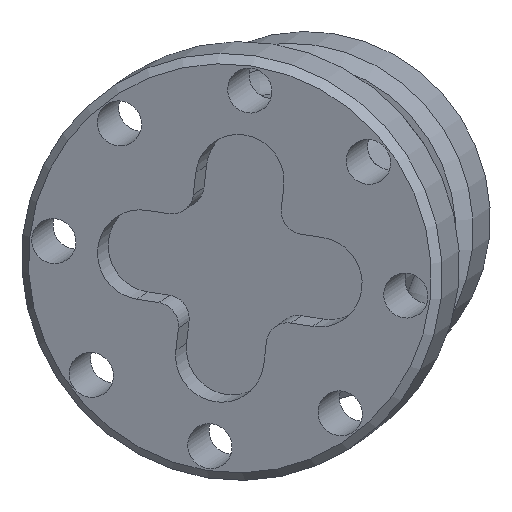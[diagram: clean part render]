
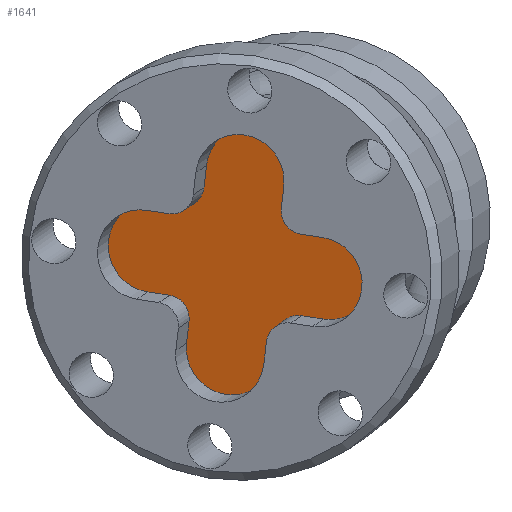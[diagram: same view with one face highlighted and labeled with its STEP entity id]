
A CAD part, isometric view. The second image highlights one B-rep face of the part: STEP entity #1641.
In plain terms, the highlighted planar face has unit normal (-0.785, -0.453, 0.423).
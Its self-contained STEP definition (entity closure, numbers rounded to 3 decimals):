
#73=CARTESIAN_POINT('',(-72.065,28.353,-6.648));
#74=VERTEX_POINT('',#73);
#75=CARTESIAN_POINT('',(-82.065,45.673,-6.648));
#76=VERTEX_POINT('',#75);
#77=CARTESIAN_POINT('',(-77.065,37.013,-6.648));
#78=DIRECTION('',(-0.785,-0.453,0.423));
#79=DIRECTION('',(0.366,0.211,0.906));
#80=AXIS2_PLACEMENT_3D('',#77,#78,#79);
#81=CIRCLE('',#80,10.);
#82=EDGE_CURVE('',#74,#76,#81,.T.);
#1264=CARTESIAN_POINT('',(-86.705,19.901,-42.9));
#1265=VERTEX_POINT('',#1264);
#1272=CARTESIAN_POINT('',(-96.705,37.221,-42.9));
#1273=VERTEX_POINT('',#1272);
#1274=CARTESIAN_POINT('',(-91.705,28.561,-42.9));
#1275=DIRECTION('',(-0.785,-0.453,0.423));
#1276=DIRECTION('',(-0.5,0.866,0.));
#1277=AXIS2_PLACEMENT_3D('',#1274,#1275,#1276);
#1278=CIRCLE('',#1277,10.0);
#1279=EDGE_CURVE('',#1273,#1265,#1278,.T.);
#1297=CARTESIAN_POINT('',(-94.875,38.278,-38.369));
#1298=VERTEX_POINT('',#1297);
#1299=CARTESIAN_POINT('',(-94.875,38.278,-38.369));
#1300=DIRECTION('',(-0.366,-0.211,-0.906));
#1301=VECTOR('',#1300,1.);
#1302=LINE('',#1299,#1301);
#1303=EDGE_CURVE('',#1298,#1273,#1302,.T.);
#1321=CARTESIAN_POINT('',(-95.545,43.664,-33.837));
#1322=VERTEX_POINT('',#1321);
#1323=CARTESIAN_POINT('',(-97.375,42.608,-38.369));
#1324=DIRECTION('',(0.785,0.453,-0.423));
#1325=DIRECTION('',(0.366,0.211,0.906));
#1326=AXIS2_PLACEMENT_3D('',#1323,#1324,#1325);
#1327=CIRCLE('',#1326,5.);
#1328=EDGE_CURVE('',#1322,#1298,#1327,.T.);
#1346=CARTESIAN_POINT('',(-98.045,47.994,-33.837));
#1347=VERTEX_POINT('',#1346);
#1348=CARTESIAN_POINT('',(-98.045,47.994,-33.837));
#1349=DIRECTION('',(0.5,-0.866,0.0));
#1350=VECTOR('',#1349,1.);
#1351=LINE('',#1348,#1350);
#1352=EDGE_CURVE('',#1347,#1322,#1351,.T.);
#1370=CARTESIAN_POINT('',(-90.725,52.221,-15.711));
#1371=VERTEX_POINT('',#1370);
#1372=CARTESIAN_POINT('',(-94.385,50.107,-24.774));
#1373=DIRECTION('',(-0.785,-0.453,0.423));
#1374=DIRECTION('',(0.366,0.211,0.906));
#1375=AXIS2_PLACEMENT_3D('',#1372,#1373,#1374);
#1376=CIRCLE('',#1375,10.0);
#1377=EDGE_CURVE('',#1371,#1347,#1376,.T.);
#1395=CARTESIAN_POINT('',(-88.225,47.89,-15.711));
#1396=VERTEX_POINT('',#1395);
#1397=CARTESIAN_POINT('',(-88.225,47.89,-15.711));
#1398=DIRECTION('',(-0.5,0.866,0.0));
#1399=VECTOR('',#1398,1.);
#1400=LINE('',#1397,#1399);
#1401=EDGE_CURVE('',#1396,#1371,#1400,.T.);
#1419=CARTESIAN_POINT('',(-83.895,44.617,-11.179));
#1420=VERTEX_POINT('',#1419);
#1421=CARTESIAN_POINT('',(-86.395,48.947,-11.179));
#1422=DIRECTION('',(0.785,0.453,-0.423));
#1423=DIRECTION('',(0.5,-0.866,0.));
#1424=AXIS2_PLACEMENT_3D('',#1421,#1422,#1423);
#1425=CIRCLE('',#1424,5.);
#1426=EDGE_CURVE('',#1420,#1396,#1425,.T.);
#1444=CARTESIAN_POINT('',(-82.065,45.673,-6.648));
#1445=DIRECTION('',(-0.366,-0.211,-0.906));
#1446=VECTOR('',#1445,1.);
#1447=LINE('',#1444,#1446);
#1448=EDGE_CURVE('',#76,#1420,#1447,.T.);
#1461=CARTESIAN_POINT('',(-73.895,27.296,-11.179));
#1462=VERTEX_POINT('',#1461);
#1463=CARTESIAN_POINT('',(-73.895,27.296,-11.179));
#1464=DIRECTION('',(0.366,0.211,0.906));
#1465=VECTOR('',#1464,1.);
#1466=LINE('',#1463,#1465);
#1467=EDGE_CURVE('',#1462,#74,#1466,.T.);
#1485=CARTESIAN_POINT('',(-73.225,21.91,-15.711));
#1486=VERTEX_POINT('',#1485);
#1487=CARTESIAN_POINT('',(-71.395,22.966,-11.179));
#1488=DIRECTION('',(0.785,0.453,-0.423));
#1489=DIRECTION('',(-0.366,-0.211,-0.906));
#1490=AXIS2_PLACEMENT_3D('',#1487,#1488,#1489);
#1491=CIRCLE('',#1490,5.);
#1492=EDGE_CURVE('',#1486,#1462,#1491,.T.);
#1510=CARTESIAN_POINT('',(-70.725,17.58,-15.711));
#1511=VERTEX_POINT('',#1510);
#1512=CARTESIAN_POINT('',(-70.725,17.58,-15.711));
#1513=DIRECTION('',(-0.5,0.866,0.0));
#1514=VECTOR('',#1513,1.);
#1515=LINE('',#1512,#1514);
#1516=EDGE_CURVE('',#1511,#1486,#1515,.T.);
#1534=CARTESIAN_POINT('',(-78.045,13.353,-33.837));
#1535=VERTEX_POINT('',#1534);
#1536=CARTESIAN_POINT('',(-74.385,15.466,-24.774));
#1537=DIRECTION('',(-0.785,-0.453,0.423));
#1538=DIRECTION('',(-0.366,-0.211,-0.906));
#1539=AXIS2_PLACEMENT_3D('',#1536,#1537,#1538);
#1540=CIRCLE('',#1539,10.0);
#1541=EDGE_CURVE('',#1535,#1511,#1540,.T.);
#1559=CARTESIAN_POINT('',(-80.545,17.684,-33.837));
#1560=VERTEX_POINT('',#1559);
#1561=CARTESIAN_POINT('',(-80.545,17.684,-33.837));
#1562=DIRECTION('',(0.5,-0.866,0.0));
#1563=VECTOR('',#1562,1.);
#1564=LINE('',#1561,#1563);
#1565=EDGE_CURVE('',#1560,#1535,#1564,.T.);
#1583=CARTESIAN_POINT('',(-84.875,20.957,-38.369));
#1584=VERTEX_POINT('',#1583);
#1585=CARTESIAN_POINT('',(-82.375,16.627,-38.369));
#1586=DIRECTION('',(0.785,0.453,-0.423));
#1587=DIRECTION('',(-0.5,0.866,0.));
#1588=AXIS2_PLACEMENT_3D('',#1585,#1586,#1587);
#1589=CIRCLE('',#1588,5.);
#1590=EDGE_CURVE('',#1584,#1560,#1589,.T.);
#1608=CARTESIAN_POINT('',(-86.705,19.901,-42.9));
#1609=DIRECTION('',(0.366,0.211,0.906));
#1610=VECTOR('',#1609,1.);
#1611=LINE('',#1608,#1610);
#1612=EDGE_CURVE('',#1265,#1584,#1611,.T.);
#1618=CARTESIAN_POINT('',(-79.963,-2.765,-54.682));
#1619=DIRECTION('',(-0.785,-0.453,0.423));
#1620=DIRECTION('',(0.366,0.211,0.906));
#1621=AXIS2_PLACEMENT_3D('',#1618,#1619,#1620);
#1622=PLANE('',#1621);
#1623=ORIENTED_EDGE('',*,*,#1279,.T.);
#1624=ORIENTED_EDGE('',*,*,#1612,.T.);
#1625=ORIENTED_EDGE('',*,*,#1590,.T.);
#1626=ORIENTED_EDGE('',*,*,#1565,.T.);
#1627=ORIENTED_EDGE('',*,*,#1541,.T.);
#1628=ORIENTED_EDGE('',*,*,#1516,.T.);
#1629=ORIENTED_EDGE('',*,*,#1492,.T.);
#1630=ORIENTED_EDGE('',*,*,#1467,.T.);
#1631=ORIENTED_EDGE('',*,*,#82,.T.);
#1632=ORIENTED_EDGE('',*,*,#1448,.T.);
#1633=ORIENTED_EDGE('',*,*,#1426,.T.);
#1634=ORIENTED_EDGE('',*,*,#1401,.T.);
#1635=ORIENTED_EDGE('',*,*,#1377,.T.);
#1636=ORIENTED_EDGE('',*,*,#1352,.T.);
#1637=ORIENTED_EDGE('',*,*,#1328,.T.);
#1638=ORIENTED_EDGE('',*,*,#1303,.T.);
#1639=EDGE_LOOP('',(#1623,#1624,#1625,#1626,#1627,#1628,#1629,#1630,#1631,#1632,#1633,#1634,#1635,#1636,#1637,#1638));
#1640=FACE_OUTER_BOUND('',#1639,.T.);
#1641=ADVANCED_FACE('',(#1640),#1622,.T.);
